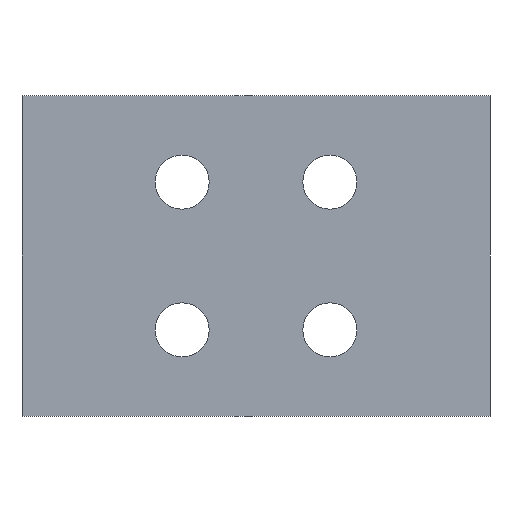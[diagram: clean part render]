
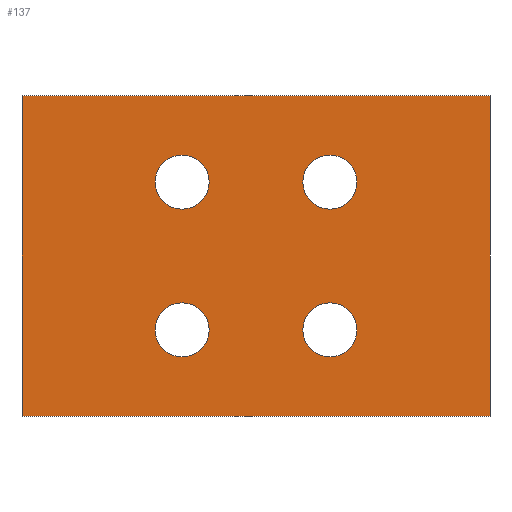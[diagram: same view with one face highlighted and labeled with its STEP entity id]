
A CAD part, front view. The second image highlights one B-rep face of the part: STEP entity #137.
In plain terms, the highlighted planar face has unit normal (0, -1, 0).
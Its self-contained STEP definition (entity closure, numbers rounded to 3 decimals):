
#21 = EDGE_CURVE('',#22,#24,#26,.T.);
#22 = VERTEX_POINT('',#23);
#23 = CARTESIAN_POINT('',(-1733.,1811.95,3142.));
#24 = VERTEX_POINT('',#25);
#25 = CARTESIAN_POINT('',(-1733.,1811.95,3272.));
#26 = SURFACE_CURVE('',#27,(#31,#43),.PCURVE_S1.);
#27 = LINE('',#28,#29);
#28 = CARTESIAN_POINT('',(-1733.,1811.95,3142.));
#29 = VECTOR('',#30,1.);
#30 = DIRECTION('',(0.,0.,1.));
#31 = PCURVE('',#32,#37);
#32 = PLANE('',#33);
#33 = AXIS2_PLACEMENT_3D('',#34,#35,#36);
#34 = CARTESIAN_POINT('',(-1733.,1811.95,3142.));
#35 = DIRECTION('',(1.,0.,-0.));
#36 = DIRECTION('',(0.,0.,1.));
#37 = DEFINITIONAL_REPRESENTATION('',(#38),#42);
#38 = LINE('',#39,#40);
#39 = CARTESIAN_POINT('',(0.,0.));
#40 = VECTOR('',#41,1.);
#41 = DIRECTION('',(1.,0.));
#42 = ( GEOMETRIC_REPRESENTATION_CONTEXT(2) 
PARAMETRIC_REPRESENTATION_CONTEXT() REPRESENTATION_CONTEXT('2D SPACE',''
  ) );
#43 = PCURVE('',#44,#49);
#44 = PLANE('',#45);
#45 = AXIS2_PLACEMENT_3D('',#46,#47,#48);
#46 = CARTESIAN_POINT('',(-1733.,1811.95,3142.));
#47 = DIRECTION('',(-0.,1.,0.));
#48 = DIRECTION('',(0.,0.,1.));
#49 = DEFINITIONAL_REPRESENTATION('',(#50),#54);
#50 = LINE('',#51,#52);
#51 = CARTESIAN_POINT('',(0.,0.));
#52 = VECTOR('',#53,1.);
#53 = DIRECTION('',(1.,0.));
#54 = ( GEOMETRIC_REPRESENTATION_CONTEXT(2) 
PARAMETRIC_REPRESENTATION_CONTEXT() REPRESENTATION_CONTEXT('2D SPACE',''
  ) );
#72 = PLANE('',#73);
#73 = AXIS2_PLACEMENT_3D('',#74,#75,#76);
#74 = CARTESIAN_POINT('',(-1733.,1811.95,3142.));
#75 = DIRECTION('',(0.,0.,1.));
#76 = DIRECTION('',(1.,0.,-0.));
#126 = PLANE('',#127);
#127 = AXIS2_PLACEMENT_3D('',#128,#129,#130);
#128 = CARTESIAN_POINT('',(-1733.,1811.95,3272.));
#129 = DIRECTION('',(0.,0.,1.));
#130 = DIRECTION('',(1.,0.,-0.));
#137 = ADVANCED_FACE('',(#138,#213,#244,#275,#306),#44,.F.);
#138 = FACE_BOUND('',#139,.F.);
#139 = EDGE_LOOP('',(#140,#163,#164,#187));
#140 = ORIENTED_EDGE('',*,*,#141,.F.);
#141 = EDGE_CURVE('',#22,#142,#144,.T.);
#142 = VERTEX_POINT('',#143);
#143 = CARTESIAN_POINT('',(-1543.,1811.95,3142.));
#144 = SURFACE_CURVE('',#145,(#149,#156),.PCURVE_S1.);
#145 = LINE('',#146,#147);
#146 = CARTESIAN_POINT('',(-1733.,1811.95,3142.));
#147 = VECTOR('',#148,1.);
#148 = DIRECTION('',(1.,0.,-0.));
#149 = PCURVE('',#44,#150);
#150 = DEFINITIONAL_REPRESENTATION('',(#151),#155);
#151 = LINE('',#152,#153);
#152 = CARTESIAN_POINT('',(0.,0.));
#153 = VECTOR('',#154,1.);
#154 = DIRECTION('',(0.,1.));
#155 = ( GEOMETRIC_REPRESENTATION_CONTEXT(2) 
PARAMETRIC_REPRESENTATION_CONTEXT() REPRESENTATION_CONTEXT('2D SPACE',''
  ) );
#156 = PCURVE('',#72,#157);
#157 = DEFINITIONAL_REPRESENTATION('',(#158),#162);
#158 = LINE('',#159,#160);
#159 = CARTESIAN_POINT('',(0.,0.));
#160 = VECTOR('',#161,1.);
#161 = DIRECTION('',(1.,0.));
#162 = ( GEOMETRIC_REPRESENTATION_CONTEXT(2) 
PARAMETRIC_REPRESENTATION_CONTEXT() REPRESENTATION_CONTEXT('2D SPACE',''
  ) );
#163 = ORIENTED_EDGE('',*,*,#21,.T.);
#164 = ORIENTED_EDGE('',*,*,#165,.T.);
#165 = EDGE_CURVE('',#24,#166,#168,.T.);
#166 = VERTEX_POINT('',#167);
#167 = CARTESIAN_POINT('',(-1543.,1811.95,3272.));
#168 = SURFACE_CURVE('',#169,(#173,#180),.PCURVE_S1.);
#169 = LINE('',#170,#171);
#170 = CARTESIAN_POINT('',(-1733.,1811.95,3272.));
#171 = VECTOR('',#172,1.);
#172 = DIRECTION('',(1.,0.,-0.));
#173 = PCURVE('',#44,#174);
#174 = DEFINITIONAL_REPRESENTATION('',(#175),#179);
#175 = LINE('',#176,#177);
#176 = CARTESIAN_POINT('',(130.,0.));
#177 = VECTOR('',#178,1.);
#178 = DIRECTION('',(0.,1.));
#179 = ( GEOMETRIC_REPRESENTATION_CONTEXT(2) 
PARAMETRIC_REPRESENTATION_CONTEXT() REPRESENTATION_CONTEXT('2D SPACE',''
  ) );
#180 = PCURVE('',#126,#181);
#181 = DEFINITIONAL_REPRESENTATION('',(#182),#186);
#182 = LINE('',#183,#184);
#183 = CARTESIAN_POINT('',(0.,0.));
#184 = VECTOR('',#185,1.);
#185 = DIRECTION('',(1.,0.));
#186 = ( GEOMETRIC_REPRESENTATION_CONTEXT(2) 
PARAMETRIC_REPRESENTATION_CONTEXT() REPRESENTATION_CONTEXT('2D SPACE',''
  ) );
#187 = ORIENTED_EDGE('',*,*,#188,.F.);
#188 = EDGE_CURVE('',#142,#166,#189,.T.);
#189 = SURFACE_CURVE('',#190,(#194,#201),.PCURVE_S1.);
#190 = LINE('',#191,#192);
#191 = CARTESIAN_POINT('',(-1543.,1811.95,3142.));
#192 = VECTOR('',#193,1.);
#193 = DIRECTION('',(0.,0.,1.));
#194 = PCURVE('',#44,#195);
#195 = DEFINITIONAL_REPRESENTATION('',(#196),#200);
#196 = LINE('',#197,#198);
#197 = CARTESIAN_POINT('',(0.,190.));
#198 = VECTOR('',#199,1.);
#199 = DIRECTION('',(1.,0.));
#200 = ( GEOMETRIC_REPRESENTATION_CONTEXT(2) 
PARAMETRIC_REPRESENTATION_CONTEXT() REPRESENTATION_CONTEXT('2D SPACE',''
  ) );
#201 = PCURVE('',#202,#207);
#202 = PLANE('',#203);
#203 = AXIS2_PLACEMENT_3D('',#204,#205,#206);
#204 = CARTESIAN_POINT('',(-1543.,1811.95,3142.));
#205 = DIRECTION('',(1.,0.,-0.));
#206 = DIRECTION('',(0.,0.,1.));
#207 = DEFINITIONAL_REPRESENTATION('',(#208),#212);
#208 = LINE('',#209,#210);
#209 = CARTESIAN_POINT('',(0.,0.));
#210 = VECTOR('',#211,1.);
#211 = DIRECTION('',(1.,0.));
#212 = ( GEOMETRIC_REPRESENTATION_CONTEXT(2) 
PARAMETRIC_REPRESENTATION_CONTEXT() REPRESENTATION_CONTEXT('2D SPACE',''
  ) );
#213 = FACE_BOUND('',#214,.F.);
#214 = EDGE_LOOP('',(#215));
#215 = ORIENTED_EDGE('',*,*,#216,.F.);
#216 = EDGE_CURVE('',#217,#217,#219,.T.);
#217 = VERTEX_POINT('',#218);
#218 = CARTESIAN_POINT('',(-1668.,1811.95,3188.));
#219 = SURFACE_CURVE('',#220,(#225,#232),.PCURVE_S1.);
#220 = CIRCLE('',#221,11.);
#221 = AXIS2_PLACEMENT_3D('',#222,#223,#224);
#222 = CARTESIAN_POINT('',(-1668.,1811.95,3177.));
#223 = DIRECTION('',(0.,1.,0.));
#224 = DIRECTION('',(0.,-0.,1.));
#225 = PCURVE('',#44,#226);
#226 = DEFINITIONAL_REPRESENTATION('',(#227),#231);
#227 = CIRCLE('',#228,11.);
#228 = AXIS2_PLACEMENT_2D('',#229,#230);
#229 = CARTESIAN_POINT('',(35.,65.));
#230 = DIRECTION('',(1.,0.));
#231 = ( GEOMETRIC_REPRESENTATION_CONTEXT(2) 
PARAMETRIC_REPRESENTATION_CONTEXT() REPRESENTATION_CONTEXT('2D SPACE',''
  ) );
#232 = PCURVE('',#233,#238);
#233 = CYLINDRICAL_SURFACE('',#234,11.);
#234 = AXIS2_PLACEMENT_3D('',#235,#236,#237);
#235 = CARTESIAN_POINT('',(-1668.,1786.,3177.));
#236 = DIRECTION('',(0.,1.,0.));
#237 = DIRECTION('',(0.,-0.,1.));
#238 = DEFINITIONAL_REPRESENTATION('',(#239),#243);
#239 = LINE('',#240,#241);
#240 = CARTESIAN_POINT('',(0.,25.95));
#241 = VECTOR('',#242,1.);
#242 = DIRECTION('',(1.,0.));
#243 = ( GEOMETRIC_REPRESENTATION_CONTEXT(2) 
PARAMETRIC_REPRESENTATION_CONTEXT() REPRESENTATION_CONTEXT('2D SPACE',''
  ) );
#244 = FACE_BOUND('',#245,.F.);
#245 = EDGE_LOOP('',(#246));
#246 = ORIENTED_EDGE('',*,*,#247,.F.);
#247 = EDGE_CURVE('',#248,#248,#250,.T.);
#248 = VERTEX_POINT('',#249);
#249 = CARTESIAN_POINT('',(-1668.,1811.95,3248.));
#250 = SURFACE_CURVE('',#251,(#256,#263),.PCURVE_S1.);
#251 = CIRCLE('',#252,11.);
#252 = AXIS2_PLACEMENT_3D('',#253,#254,#255);
#253 = CARTESIAN_POINT('',(-1668.,1811.95,3237.));
#254 = DIRECTION('',(0.,1.,0.));
#255 = DIRECTION('',(0.,-0.,1.));
#256 = PCURVE('',#44,#257);
#257 = DEFINITIONAL_REPRESENTATION('',(#258),#262);
#258 = CIRCLE('',#259,11.);
#259 = AXIS2_PLACEMENT_2D('',#260,#261);
#260 = CARTESIAN_POINT('',(95.,65.));
#261 = DIRECTION('',(1.,0.));
#262 = ( GEOMETRIC_REPRESENTATION_CONTEXT(2) 
PARAMETRIC_REPRESENTATION_CONTEXT() REPRESENTATION_CONTEXT('2D SPACE',''
  ) );
#263 = PCURVE('',#264,#269);
#264 = CYLINDRICAL_SURFACE('',#265,11.);
#265 = AXIS2_PLACEMENT_3D('',#266,#267,#268);
#266 = CARTESIAN_POINT('',(-1668.,1786.,3237.));
#267 = DIRECTION('',(0.,1.,0.));
#268 = DIRECTION('',(0.,-0.,1.));
#269 = DEFINITIONAL_REPRESENTATION('',(#270),#274);
#270 = LINE('',#271,#272);
#271 = CARTESIAN_POINT('',(0.,25.95));
#272 = VECTOR('',#273,1.);
#273 = DIRECTION('',(1.,0.));
#274 = ( GEOMETRIC_REPRESENTATION_CONTEXT(2) 
PARAMETRIC_REPRESENTATION_CONTEXT() REPRESENTATION_CONTEXT('2D SPACE',''
  ) );
#275 = FACE_BOUND('',#276,.F.);
#276 = EDGE_LOOP('',(#277));
#277 = ORIENTED_EDGE('',*,*,#278,.F.);
#278 = EDGE_CURVE('',#279,#279,#281,.T.);
#279 = VERTEX_POINT('',#280);
#280 = CARTESIAN_POINT('',(-1608.,1811.95,3188.));
#281 = SURFACE_CURVE('',#282,(#287,#294),.PCURVE_S1.);
#282 = CIRCLE('',#283,11.);
#283 = AXIS2_PLACEMENT_3D('',#284,#285,#286);
#284 = CARTESIAN_POINT('',(-1608.,1811.95,3177.));
#285 = DIRECTION('',(0.,1.,0.));
#286 = DIRECTION('',(0.,-0.,1.));
#287 = PCURVE('',#44,#288);
#288 = DEFINITIONAL_REPRESENTATION('',(#289),#293);
#289 = CIRCLE('',#290,11.);
#290 = AXIS2_PLACEMENT_2D('',#291,#292);
#291 = CARTESIAN_POINT('',(35.,125.));
#292 = DIRECTION('',(1.,0.));
#293 = ( GEOMETRIC_REPRESENTATION_CONTEXT(2) 
PARAMETRIC_REPRESENTATION_CONTEXT() REPRESENTATION_CONTEXT('2D SPACE',''
  ) );
#294 = PCURVE('',#295,#300);
#295 = CYLINDRICAL_SURFACE('',#296,11.);
#296 = AXIS2_PLACEMENT_3D('',#297,#298,#299);
#297 = CARTESIAN_POINT('',(-1608.,1786.,3177.));
#298 = DIRECTION('',(0.,1.,0.));
#299 = DIRECTION('',(0.,-0.,1.));
#300 = DEFINITIONAL_REPRESENTATION('',(#301),#305);
#301 = LINE('',#302,#303);
#302 = CARTESIAN_POINT('',(0.,25.95));
#303 = VECTOR('',#304,1.);
#304 = DIRECTION('',(1.,0.));
#305 = ( GEOMETRIC_REPRESENTATION_CONTEXT(2) 
PARAMETRIC_REPRESENTATION_CONTEXT() REPRESENTATION_CONTEXT('2D SPACE',''
  ) );
#306 = FACE_BOUND('',#307,.F.);
#307 = EDGE_LOOP('',(#308));
#308 = ORIENTED_EDGE('',*,*,#309,.F.);
#309 = EDGE_CURVE('',#310,#310,#312,.T.);
#310 = VERTEX_POINT('',#311);
#311 = CARTESIAN_POINT('',(-1608.,1811.95,3248.));
#312 = SURFACE_CURVE('',#313,(#318,#325),.PCURVE_S1.);
#313 = CIRCLE('',#314,11.);
#314 = AXIS2_PLACEMENT_3D('',#315,#316,#317);
#315 = CARTESIAN_POINT('',(-1608.,1811.95,3237.));
#316 = DIRECTION('',(0.,1.,0.));
#317 = DIRECTION('',(0.,-0.,1.));
#318 = PCURVE('',#44,#319);
#319 = DEFINITIONAL_REPRESENTATION('',(#320),#324);
#320 = CIRCLE('',#321,11.);
#321 = AXIS2_PLACEMENT_2D('',#322,#323);
#322 = CARTESIAN_POINT('',(95.,125.));
#323 = DIRECTION('',(1.,0.));
#324 = ( GEOMETRIC_REPRESENTATION_CONTEXT(2) 
PARAMETRIC_REPRESENTATION_CONTEXT() REPRESENTATION_CONTEXT('2D SPACE',''
  ) );
#325 = PCURVE('',#326,#331);
#326 = CYLINDRICAL_SURFACE('',#327,11.);
#327 = AXIS2_PLACEMENT_3D('',#328,#329,#330);
#328 = CARTESIAN_POINT('',(-1608.,1786.,3237.));
#329 = DIRECTION('',(0.,1.,0.));
#330 = DIRECTION('',(0.,-0.,1.));
#331 = DEFINITIONAL_REPRESENTATION('',(#332),#336);
#332 = LINE('',#333,#334);
#333 = CARTESIAN_POINT('',(0.,25.95));
#334 = VECTOR('',#335,1.);
#335 = DIRECTION('',(1.,0.));
#336 = ( GEOMETRIC_REPRESENTATION_CONTEXT(2) 
PARAMETRIC_REPRESENTATION_CONTEXT() REPRESENTATION_CONTEXT('2D SPACE',''
  ) );
